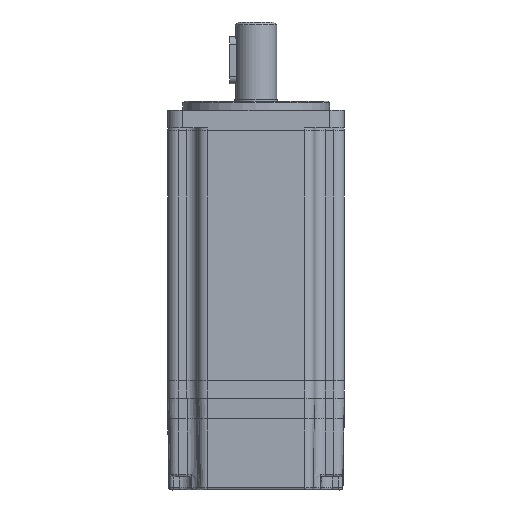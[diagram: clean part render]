
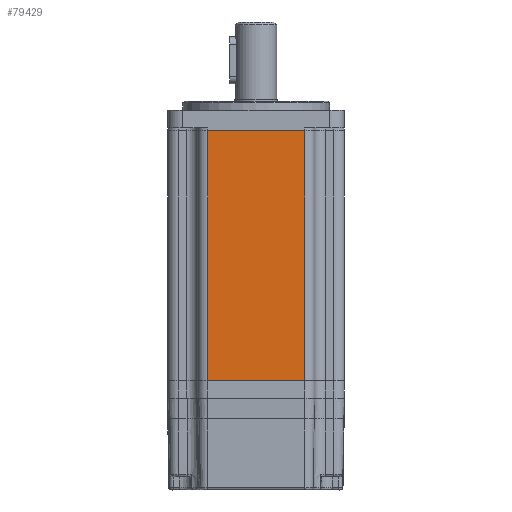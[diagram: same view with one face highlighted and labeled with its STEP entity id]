
A CAD part, left-side view. The second image highlights one B-rep face of the part: STEP entity #79429.
In plain terms, the highlighted planar face has unit normal (-1, 0, 0) as drawn and (0, 1, 0) by its records, which use the part's own axes.
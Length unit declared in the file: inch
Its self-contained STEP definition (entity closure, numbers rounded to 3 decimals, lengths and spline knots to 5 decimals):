
#2570 = DIRECTION ( 'NONE',  ( 0., 0., -1. ) ) ;
#2827 = AXIS2_PLACEMENT_3D ( 'NONE', #121057, #24558, #67561 ) ;
#2869 = VECTOR ( 'NONE', #122728, 39.37008 ) ;
#8794 = ORIENTED_EDGE ( 'NONE', *, *, #73734, .F. ) ;
#10050 = EDGE_CURVE ( 'NONE', #105321, #112424, #36818, .T. ) ;
#10299 = CARTESIAN_POINT ( 'NONE',  ( 0.64961, 1.1811, -3.34646 ) ) ;
#13813 = ORIENTED_EDGE ( 'NONE', *, *, #116206, .F. ) ;
#21674 = CARTESIAN_POINT ( 'NONE',  ( -0.7874, 1.1811, 0. ) ) ;
#22542 = ORIENTED_EDGE ( 'NONE', *, *, #10050, .F. ) ;
#24460 = LINE ( 'NONE', #33071, #114515 ) ;
#24558 = DIRECTION ( 'NONE',  ( 0., -1., 0. ) ) ;
#25947 = VERTEX_POINT ( 'NONE', #123918 ) ;
#31162 = ORIENTED_EDGE ( 'NONE', *, *, #51570, .F. ) ;
#33071 = CARTESIAN_POINT ( 'NONE',  ( 0.7874, 1.1811, -3.34646 ) ) ;
#35120 = FACE_OUTER_BOUND ( 'NONE', #94804, .T. ) ;
#36818 = LINE ( 'NONE', #79815, #2869 ) ;
#39089 = CARTESIAN_POINT ( 'NONE',  ( 0.64961, 1.1811, 0. ) ) ;
#44297 = VECTOR ( 'NONE', #64686, 39.37008 ) ;
#51570 = EDGE_CURVE ( 'NONE', #25947, #89623, #56158, .T. ) ;
#56158 = LINE ( 'NONE', #99151, #71127 ) ;
#64686 = DIRECTION ( 'NONE',  ( -1., 0., 0. ) ) ;
#67561 = DIRECTION ( 'NONE',  ( 0., 0., -1. ) ) ;
#71127 = VECTOR ( 'NONE', #2570, 39.37008 ) ;
#73734 = EDGE_CURVE ( 'NONE', #112424, #25947, #118184, .T. ) ;
#76075 = DIRECTION ( 'NONE',  ( 1., 0., 0. ) ) ;
#78115 = PLANE ( 'NONE',  #2827 ) ;
#79429 = ADVANCED_FACE ( 'NONE', ( #35120 ), #78115, .F. ) ;
#79815 = CARTESIAN_POINT ( 'NONE',  ( 0.64961, 1.1811, -3.34646 ) ) ;
#89623 = VERTEX_POINT ( 'NONE', #127145 ) ;
#94804 = EDGE_LOOP ( 'NONE', ( #8794, #22542, #13813, #31162 ) ) ;
#99151 = CARTESIAN_POINT ( 'NONE',  ( -0.64961, 1.1811, -3.34646 ) ) ;
#105321 = VERTEX_POINT ( 'NONE', #10299 ) ;
#112424 = VERTEX_POINT ( 'NONE', #39089 ) ;
#114515 = VECTOR ( 'NONE', #76075, 39.37008 ) ;
#116206 = EDGE_CURVE ( 'NONE', #89623, #105321, #24460, .T. ) ;
#118184 = LINE ( 'NONE', #21674, #44297 ) ;
#121057 = CARTESIAN_POINT ( 'NONE',  ( -0.7874, 1.1811, -3.34646 ) ) ;
#122728 = DIRECTION ( 'NONE',  ( 0., 0., 1. ) ) ;
#123918 = CARTESIAN_POINT ( 'NONE',  ( -0.64961, 1.1811, 0. ) ) ;
#127145 = CARTESIAN_POINT ( 'NONE',  ( -0.64961, 1.1811, -3.34646 ) ) ;
